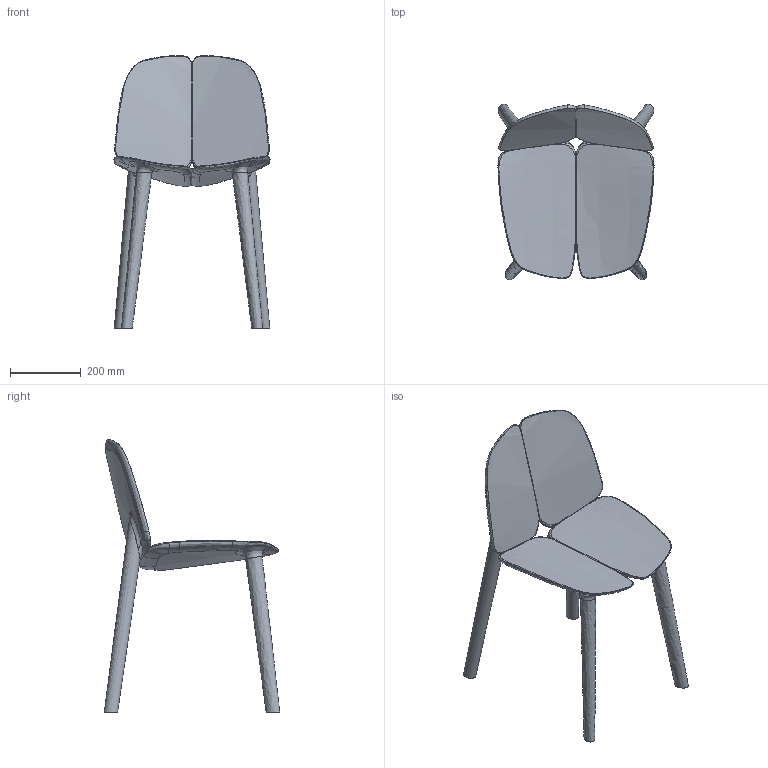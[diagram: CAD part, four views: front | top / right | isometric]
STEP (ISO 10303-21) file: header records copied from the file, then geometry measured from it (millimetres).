
FILE_DESCRIPTION(/* description */ (''),/* implementation_level */ '2;1');
FILE_NAME(/* name */ 'MC03_O~1',/* time_stamp */ '2021-05-13T08:27:52+02:00',/* author */ (''),/* organization */ (''),/* preprocessor_version */ 'ST-DEVELOPER v16.5',/* originating_system */ '',/* authorisation */ '');
FILE_SCHEMA (('AUTOMOTIVE_DESIGN'));
Length unit declared in the file: millimetre
Products named in the file (1): Document
Bounding box: 441.18 x 496.19 x 771.03 mm (x, y, z)
Surface area: 868517.8 mm2 (no closed solid volume)
Topology: 0 solids, 106 shells, 106 faces, 508 edges, 502 vertices
Faces by surface type: bspline 106
Entity records: 103170 total; most frequent: CARTESIAN_POINT 98452, B_SPLINE_CURVE_WITH_KNOTS 920, ORIENTED_EDGE 514, PCURVE 514, DEFINITIONAL_REPRESENTATION 514, SURFACE_CURVE 508, EDGE_CURVE 508, VERTEX_POINT 502
